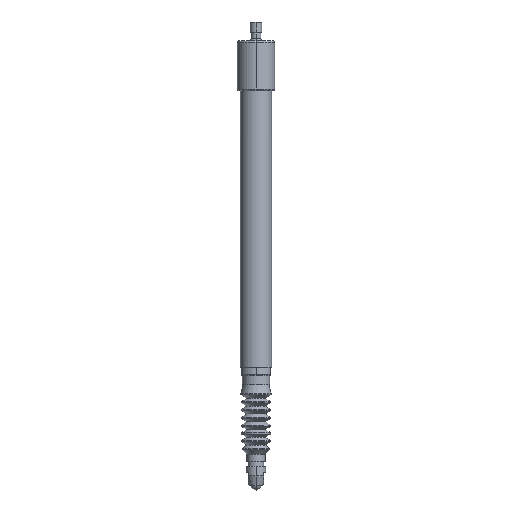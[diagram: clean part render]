
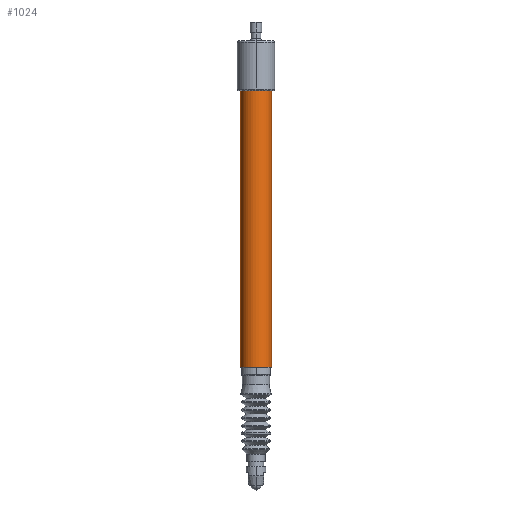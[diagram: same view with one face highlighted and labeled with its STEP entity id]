
A CAD part, front view. The second image highlights one B-rep face of the part: STEP entity #1024.
In plain terms, the highlighted cylindrical face has radius 4 mm (diameter 8 mm), a partial arc.
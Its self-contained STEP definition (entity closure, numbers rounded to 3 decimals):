
#383 = CARTESIAN_POINT ( 'NONE',  ( -5.684, 0.429, 6. ) ) ;
#511 = CARTESIAN_POINT ( 'NONE',  ( -1.684, 0.429, 86. ) ) ;
#558 = ORIENTED_EDGE ( 'NONE', *, *, #4639, .F. ) ;
#564 = VERTEX_POINT ( 'NONE', #383 ) ;
#836 = CARTESIAN_POINT ( 'NONE',  ( 2.066, -0.963, 82. ) ) ;
#1024 = ADVANCED_FACE ( 'NONE', ( #2812 ), #5417, .T. ) ;
#1044 = CARTESIAN_POINT ( 'NONE',  ( 2.316, 0.429, 86. ) ) ;
#1113 = CIRCLE ( 'NONE', #6582, 4. ) ;
#1146 = DIRECTION ( 'NONE',  ( 0., 0., 1. ) ) ;
#1196 = DIRECTION ( 'NONE',  ( 0., 0., -1. ) ) ;
#1237 = DIRECTION ( 'NONE',  ( 0., 0., -1. ) ) ;
#1306 = EDGE_CURVE ( 'NONE', #2035, #564, #9244, .T. ) ;
#1349 = DIRECTION ( 'NONE',  ( 0., 0., -1. ) ) ;
#1438 = DIRECTION ( 'NONE',  ( 0., 0., -1. ) ) ;
#1447 = VERTEX_POINT ( 'NONE', #1860 ) ;
#1570 = DIRECTION ( 'NONE',  ( 0., 0., 1. ) ) ;
#1761 = VERTEX_POINT ( 'NONE', #4857 ) ;
#1860 = CARTESIAN_POINT ( 'NONE',  ( 2.316, 0.429, 86. ) ) ;
#1866 = VERTEX_POINT ( 'NONE', #5118 ) ;
#2016 = CARTESIAN_POINT ( 'NONE',  ( 2.316, 0.429, 82. ) ) ;
#2035 = VERTEX_POINT ( 'NONE', #2279 ) ;
#2101 = EDGE_CURVE ( 'NONE', #6937, #1447, #1113, .T. ) ;
#2197 = DIRECTION ( 'NONE',  ( 1., 0., 0. ) ) ;
#2275 = DIRECTION ( 'NONE',  ( 1., 0., 0. ) ) ;
#2279 = CARTESIAN_POINT ( 'NONE',  ( -5.684, 0.429, 82. ) ) ;
#2312 = DIRECTION ( 'NONE',  ( 0., 0., -1. ) ) ;
#2368 = CARTESIAN_POINT ( 'NONE',  ( -5.434, -0.963, 85. ) ) ;
#2467 = CIRCLE ( 'NONE', #7121, 4. ) ;
#2488 = ORIENTED_EDGE ( 'NONE', *, *, #6206, .T. ) ;
#2490 = VERTEX_POINT ( 'NONE', #5995 ) ;
#2686 = EDGE_CURVE ( 'NONE', #6937, #3957, #9182, .T. ) ;
#2792 = CARTESIAN_POINT ( 'NONE',  ( -5.684, 0.429, 86. ) ) ;
#2812 = FACE_OUTER_BOUND ( 'NONE', #5829, .T. ) ;
#2926 = CARTESIAN_POINT ( 'NONE',  ( -1.684, 0.429, 85. ) ) ;
#3344 = VECTOR ( 'NONE', #1349, 1000. ) ;
#3381 = VECTOR ( 'NONE', #3857, 1000. ) ;
#3383 = CARTESIAN_POINT ( 'NONE',  ( -1.684, 0.429, 86. ) ) ;
#3384 = DIRECTION ( 'NONE',  ( 0., 0., 1. ) ) ;
#3409 = ORIENTED_EDGE ( 'NONE', *, *, #6683, .F. ) ;
#3721 = DIRECTION ( 'NONE',  ( -1., 0., 0. ) ) ;
#3857 = DIRECTION ( 'NONE',  ( 0., 0., -1. ) ) ;
#3900 = DIRECTION ( 'NONE',  ( 0., 0., -1. ) ) ;
#3957 = VERTEX_POINT ( 'NONE', #8490 ) ;
#4078 = EDGE_CURVE ( 'NONE', #564, #2490, #2467, .T. ) ;
#4082 = DIRECTION ( 'NONE',  ( -1., 0., 0. ) ) ;
#4149 = DIRECTION ( 'NONE',  ( 0., 0., 1. ) ) ;
#4320 = ORIENTED_EDGE ( 'NONE', *, *, #9310, .T. ) ;
#4419 = VECTOR ( 'NONE', #3384, 1000. ) ;
#4510 = ORIENTED_EDGE ( 'NONE', *, *, #4078, .T. ) ;
#4639 = EDGE_CURVE ( 'NONE', #8070, #2490, #6877, .T. ) ;
#4773 = CARTESIAN_POINT ( 'NONE',  ( -1.684, 0.429, 82. ) ) ;
#4857 = CARTESIAN_POINT ( 'NONE',  ( 2.316, 0.429, 85. ) ) ;
#4945 = VECTOR ( 'NONE', #1237, 1000. ) ;
#5042 = CARTESIAN_POINT ( 'NONE',  ( -1.684, 0.429, 6. ) ) ;
#5064 = EDGE_CURVE ( 'NONE', #6737, #1866, #9146, .T. ) ;
#5118 = CARTESIAN_POINT ( 'NONE',  ( -5.434, -0.963, 82. ) ) ;
#5213 = LINE ( 'NONE', #1044, #8869 ) ;
#5287 = ORIENTED_EDGE ( 'NONE', *, *, #5064, .T. ) ;
#5360 = VECTOR ( 'NONE', #1438, 1000. ) ;
#5417 = CYLINDRICAL_SURFACE ( 'NONE', #8797, 4. ) ;
#5458 = ORIENTED_EDGE ( 'NONE', *, *, #1306, .T. ) ;
#5510 = DIRECTION ( 'NONE',  ( 1., 0., 0. ) ) ;
#5513 = CARTESIAN_POINT ( 'NONE',  ( -1.684, 0.429, 85. ) ) ;
#5552 = CARTESIAN_POINT ( 'NONE',  ( -1.684, 0.429, 82. ) ) ;
#5815 = VERTEX_POINT ( 'NONE', #6599 ) ;
#5829 = EDGE_LOOP ( 'NONE', ( #3409, #5899, #7993, #4320, #5287, #6061, #5458, #4510, #558, #8898, #7588, #2488 ) ) ;
#5899 = ORIENTED_EDGE ( 'NONE', *, *, #2101, .F. ) ;
#5995 = CARTESIAN_POINT ( 'NONE',  ( 2.316, 0.429, 6. ) ) ;
#6061 = ORIENTED_EDGE ( 'NONE', *, *, #7798, .T. ) ;
#6206 = EDGE_CURVE ( 'NONE', #5815, #1761, #7508, .T. ) ;
#6233 = DIRECTION ( 'NONE',  ( 1., 0., 0. ) ) ;
#6286 = DIRECTION ( 'NONE',  ( -1., 0., 0. ) ) ;
#6348 = LINE ( 'NONE', #7657, #4419 ) ;
#6490 = EDGE_CURVE ( 'NONE', #6794, #5815, #6348, .T. ) ;
#6559 = CARTESIAN_POINT ( 'NONE',  ( -5.684, 0.429, 86. ) ) ;
#6582 = AXIS2_PLACEMENT_3D ( 'NONE', #511, #4149, #5510 ) ;
#6599 = CARTESIAN_POINT ( 'NONE',  ( 2.066, -0.963, 85. ) ) ;
#6683 = EDGE_CURVE ( 'NONE', #1447, #1761, #5213, .T. ) ;
#6737 = VERTEX_POINT ( 'NONE', #2368 ) ;
#6771 = CIRCLE ( 'NONE', #7813, 4. ) ;
#6794 = VERTEX_POINT ( 'NONE', #836 ) ;
#6811 = AXIS2_PLACEMENT_3D ( 'NONE', #2926, #7282, #2197 ) ;
#6877 = LINE ( 'NONE', #7071, #4945 ) ;
#6937 = VERTEX_POINT ( 'NONE', #8584 ) ;
#7071 = CARTESIAN_POINT ( 'NONE',  ( 2.316, 0.429, 86. ) ) ;
#7121 = AXIS2_PLACEMENT_3D ( 'NONE', #5042, #1570, #2275 ) ;
#7247 = CARTESIAN_POINT ( 'NONE',  ( -5.434, -0.963, 86. ) ) ;
#7282 = DIRECTION ( 'NONE',  ( 0., 0., 1. ) ) ;
#7508 = CIRCLE ( 'NONE', #6811, 4. ) ;
#7588 = ORIENTED_EDGE ( 'NONE', *, *, #6490, .T. ) ;
#7657 = CARTESIAN_POINT ( 'NONE',  ( 2.066, -0.963, 86. ) ) ;
#7798 = EDGE_CURVE ( 'NONE', #1866, #2035, #8137, .T. ) ;
#7813 = AXIS2_PLACEMENT_3D ( 'NONE', #5552, #1196, #6286 ) ;
#7872 = AXIS2_PLACEMENT_3D ( 'NONE', #5513, #1146, #6233 ) ;
#7993 = ORIENTED_EDGE ( 'NONE', *, *, #2686, .T. ) ;
#8070 = VERTEX_POINT ( 'NONE', #2016 ) ;
#8137 = CIRCLE ( 'NONE', #9066, 4. ) ;
#8478 = DIRECTION ( 'NONE',  ( 0., 0., -1. ) ) ;
#8490 = CARTESIAN_POINT ( 'NONE',  ( -5.684, 0.429, 85. ) ) ;
#8584 = CARTESIAN_POINT ( 'NONE',  ( -5.684, 0.429, 86. ) ) ;
#8595 = CIRCLE ( 'NONE', #7872, 4. ) ;
#8797 = AXIS2_PLACEMENT_3D ( 'NONE', #3383, #2312, #3721 ) ;
#8869 = VECTOR ( 'NONE', #3900, 1000. ) ;
#8898 = ORIENTED_EDGE ( 'NONE', *, *, #9209, .T. ) ;
#9066 = AXIS2_PLACEMENT_3D ( 'NONE', #4773, #8478, #4082 ) ;
#9146 = LINE ( 'NONE', #7247, #3344 ) ;
#9182 = LINE ( 'NONE', #6559, #3381 ) ;
#9209 = EDGE_CURVE ( 'NONE', #8070, #6794, #6771, .T. ) ;
#9244 = LINE ( 'NONE', #2792, #5360 ) ;
#9310 = EDGE_CURVE ( 'NONE', #3957, #6737, #8595, .T. ) ;
